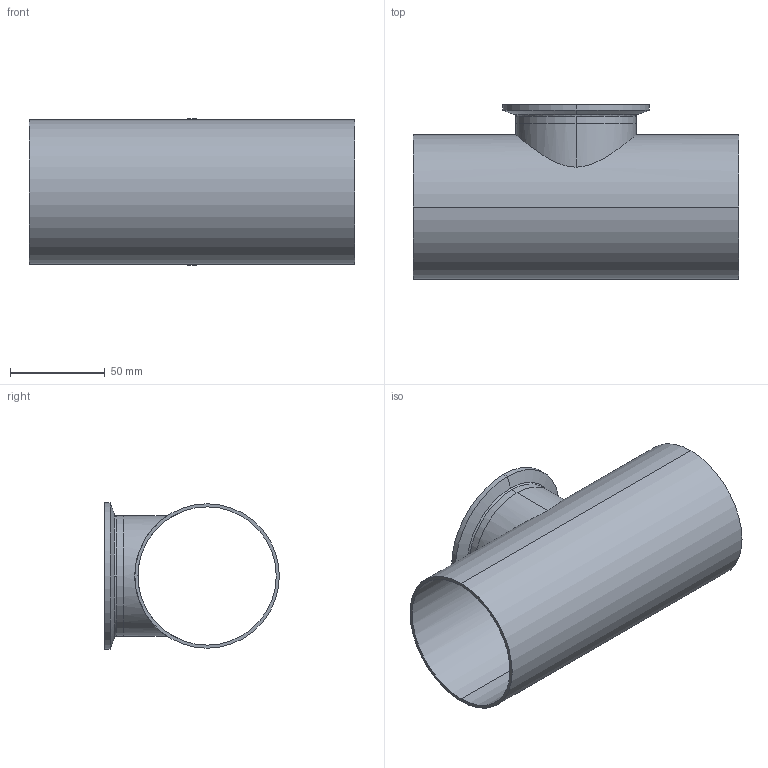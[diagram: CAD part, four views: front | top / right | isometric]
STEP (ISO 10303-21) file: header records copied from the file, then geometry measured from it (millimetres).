
FILE_DESCRIPTION (( 'STEP AP214' ), '1' );
FILE_NAME ('TE7RWWCS6L3.0x2.5-...STEP', '2016-05-23T12:22:18', ( 'eran' ), ( '' ), 'SwSTEP 2.0', 'SolidWorks 2016', '' );
FILE_SCHEMA (( 'AUTOMOTIVE_DESIGN' ));
Length unit declared in the file: millimetre
Products named in the file (1): TE7RWWCS6L3.0x2.5-..
Bounding box: 171.4 x 92.1 x 77.39 mm (x, y, z)
Volume: 74448.6 mm3; surface area: 87577.8 mm2
Topology: 2 solids, 2 shells, 36 faces, 88 edges, 58 vertices
Faces by surface type: cylinder 14, bspline 10, plane 6, cone 6
Entity records: 2074 total; most frequent: CARTESIAN_POINT 1169, DIRECTION 190, ORIENTED_EDGE 176, EDGE_CURVE 88, AXIS2_PLACEMENT_3D 85, CIRCLE 58, VERTEX_POINT 58, EDGE_LOOP 44
